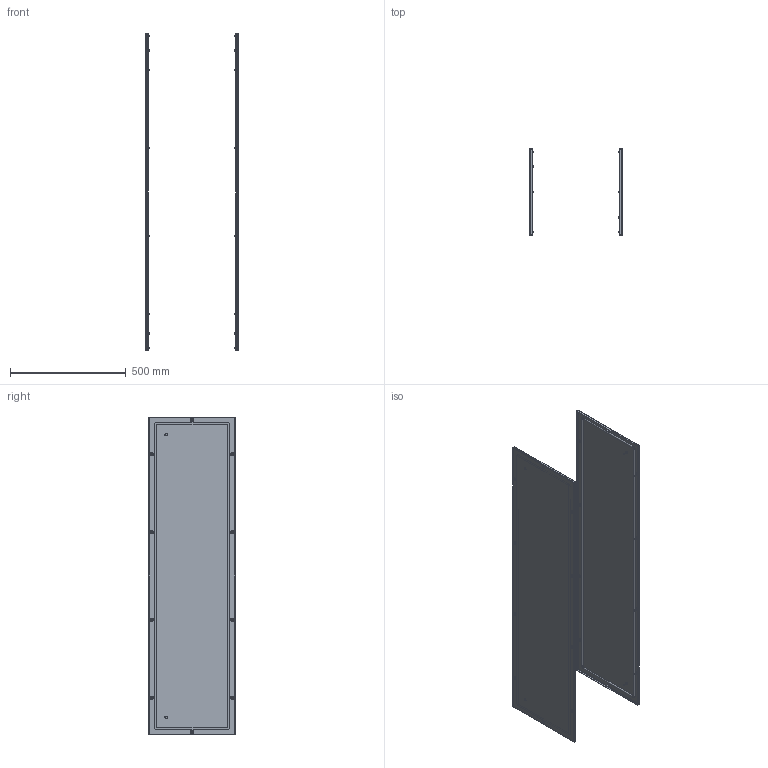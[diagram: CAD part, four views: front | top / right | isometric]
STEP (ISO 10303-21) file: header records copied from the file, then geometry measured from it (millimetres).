
FILE_DESCRIPTION(('STEP AP203'), '1');
FILE_NAME('3303 Áîêîâàÿ ïàíåëü ÑÁ', '', ('UNSPECIFIED'), ('UNSPECIFIED'), 'C3D Converter', 'C3D Toolkit', '');
FILE_SCHEMA(('CONFIG_CONTROL_DESIGN'));
Length unit declared in the file: millimetre
Products named in the file (5): 3303.140.40 СБ; 3302; 3211
Assembly tree (15 placements, depth 3):
  3303.140.40 СБ
    3302  x2
      3211
      (unnamed)
      (unnamed)
Bounding box: 400 x 373 x 1371 mm (x, y, z)
Volume: 1880415.5 mm3; surface area: 2396461.2 mm2
Topology: 28 solids, 28 shells, 806 faces, 2076 edges, 1436 vertices
Faces by surface type: plane 550, cylinder 120, cone 84, torus 52
Full cylindrical faces by diameter (mm): 5 x20, 6 x24, 9.2 x20, 11.5 x8
Entity records: 5783 total; most frequent: CARTESIAN_POINT 1695, DIRECTION 746, ORIENTED_EDGE 556, AXIS2_PLACEMENT_3D 299, EDGE_CURVE 278, EDGE_LOOP 248, VERTEX_POINT 206, ADVANCED_FACE 153
